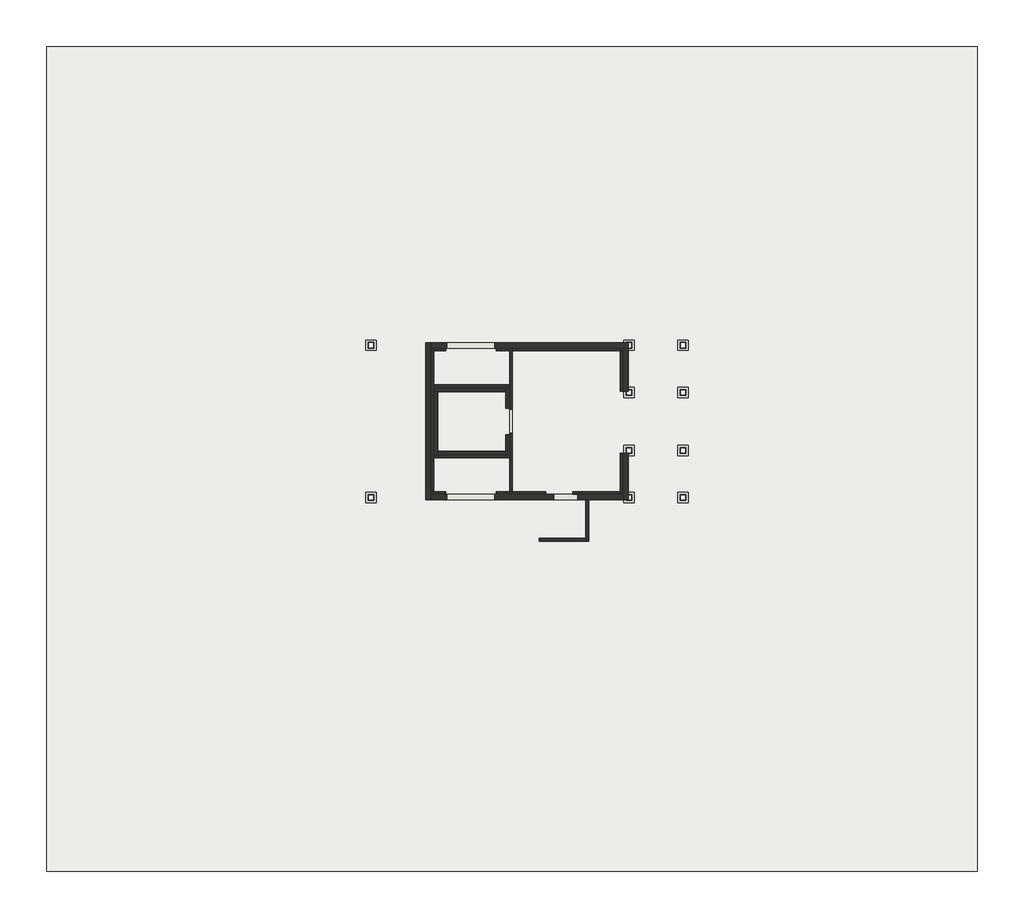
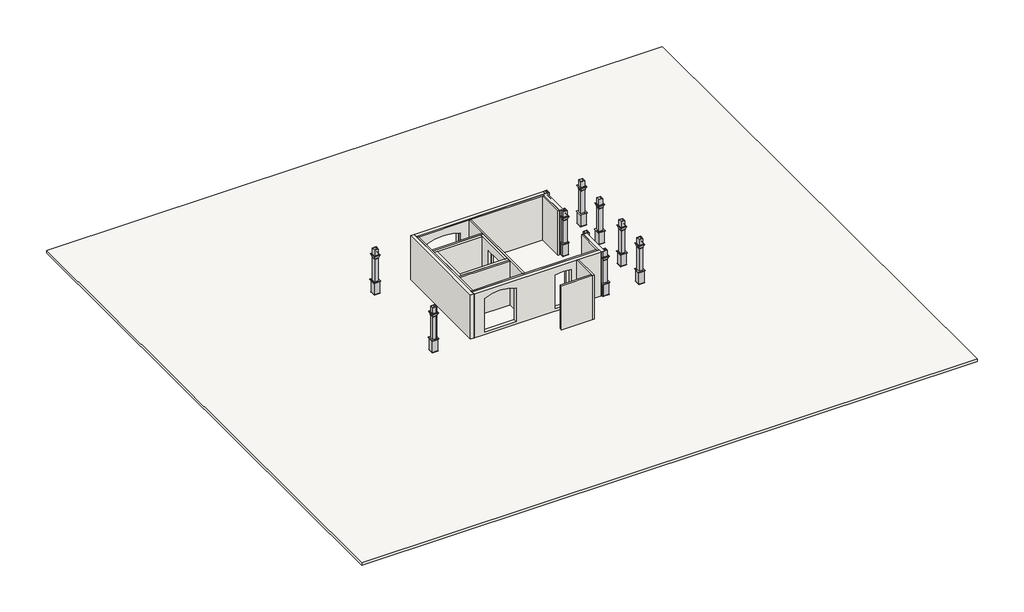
# One storey: 19 walls, 10 columns, 1 slab.
"""IFC4 building model written with IfcOpenShell, lengths in millimetres."""

from ifc_helpers import new_model, si_unit, frame, origin, place, context, project, spatial, polyline, circle_curve, outline, extrude, faceted_brep, transform, mapped, element, save
from ifc_brep_helpers import plane_surface, revolved_surface, advanced_brep
from components import column_dc167576

model = new_model("IFC4")

# Units and contexts
model_context = context("Model", 3, world=origin())
ifc_project = project(units=[si_unit("LENGTHUNIT", "METRE", prefix="MILLI")], contexts=[model_context])

# Site, building, storey
site = spatial("IfcSite", under=ifc_project)
building = spatial("IfcBuilding", under=site)
storey = spatial("IfcBuildingStorey", under=building, Name="地坪", Elevation=-150.0)

# Columns
placement = place(None, origin())
column_shape = column_dc167576(model_context)
element("IfcColumn", 1, ObjectType="构造柱外包装饰 : 构造柱外包装饰", at=placement, inside=storey, context=model_context, shape_type="MappedRepresentation", body=[
    mapped(column_shape, transform((0.0, 0.0, 0.0), x_axis=(1.0, 0.0, 0.0), y_axis=(0.0, 1.0, 0.0), z_axis=(0.0, 0.0, 1.0))),
])
element("IfcColumn", 2, ObjectType="构造柱外包装饰1 : 构造柱外包装饰", at=placement, inside=storey, context=model_context, shape_type="MappedRepresentation", body=[
    mapped(column_shape, transform((0.0, 1775.0, 0.0), x_axis=(1.0, 0.0, 0.0), y_axis=(0.0, 1.0, 0.0), z_axis=(0.0, 0.0, 1.0))),
])
element("IfcColumn", 3, ObjectType="构造柱外包装饰2 : 构造柱外包装饰", at=placement, inside=storey, context=model_context, shape_type="MappedRepresentation", body=[
    mapped(column_shape, transform((0.0, 3951.0, 0.0), x_axis=(1.0, 0.0, 0.0), y_axis=(0.0, 1.0, 0.0), z_axis=(0.0, 0.0, 1.0))),
])
element("IfcColumn", 4, ObjectType="构造柱外包装饰3 : 构造柱外包装饰", at=placement, inside=storey, context=model_context, shape_type="MappedRepresentation", body=[
    mapped(column_shape, transform((0.0, 5726.0, 0.0), x_axis=(1.0, 0.0, 0.0), y_axis=(0.0, 1.0, 0.0), z_axis=(0.0, 0.0, 1.0))),
])
element("IfcColumn", 5, ObjectType="构造柱外包装饰4 : 构造柱外包装饰", at=placement, inside=storey, context=model_context, shape_type="MappedRepresentation", body=[
    mapped(column_shape, transform((-11726.0, 0.0, 0.0), x_axis=(1.0, 0.0, 0.0), y_axis=(0.0, 1.0, 0.0), z_axis=(0.0, 0.0, 1.0))),
])
element("IfcColumn", 6, ObjectType="构造柱外包装饰7 : 构造柱外包装饰", at=placement, inside=storey, context=model_context, shape_type="MappedRepresentation", body=[
    mapped(column_shape, transform((-11726.0, 5726.0, 0.0), x_axis=(1.0, 0.0, 0.0), y_axis=(0.0, 1.0, 0.0), z_axis=(0.0, 0.0, 1.0))),
])
element("IfcColumn", 7, ObjectType="构造柱外包装饰8 : 构造柱外包装饰", at=placement, inside=storey, context=model_context, shape_type="MappedRepresentation", body=[
    mapped(column_shape, transform((-2030.0, 0.0, 0.0), x_axis=(1.0, 0.0, 0.0), y_axis=(0.0, 1.0, 0.0), z_axis=(0.0, 0.0, 1.0))),
])
element("IfcColumn", 8, ObjectType="构造柱外包装饰9 : 构造柱外包装饰", at=placement, inside=storey, context=model_context, shape_type="MappedRepresentation", body=[
    mapped(column_shape, transform((-2030.0, 1775.0, 0.0), x_axis=(1.0, 0.0, 0.0), y_axis=(0.0, 1.0, 0.0), z_axis=(0.0, 0.0, 1.0))),
])
element("IfcColumn", 9, ObjectType="构造柱外包装饰10 : 构造柱外包装饰", at=placement, inside=storey, context=model_context, shape_type="MappedRepresentation", body=[
    mapped(column_shape, transform((-2030.0, 3951.0, 0.0), x_axis=(1.0, 0.0, 0.0), y_axis=(0.0, 1.0, 0.0), z_axis=(0.0, 0.0, 1.0))),
])
element("IfcColumn", 10, ObjectType="构造柱外包装饰11 : 构造柱外包装饰", at=placement, inside=storey, context=model_context, shape_type="MappedRepresentation", body=[
    mapped(column_shape, transform((-2030.0, 5726.0, 0.0), x_axis=(1.0, 0.0, 0.0), y_axis=(0.0, 1.0, 0.0), z_axis=(0.0, 0.0, 1.0))),
])

# Slab
element("IfcSlab", 11, ObjectType="常规 - 150mm", at=placement, inside=storey, context=model_context, shape_type="SweptSolid", body=[
    extrude(outline(polyline([(16131.8080076, 15769.6347721), (16131.8080076, -15230.3652279), (-18868.1919924, -15230.3652279), (-18868.1919924, 15769.6347721), (16131.8080076, 15769.6347721)])), frame((0.0, 0.0, -300.0), z_axis=(0.0, 0.0, 1.0), x_axis=(1.0, 0.0, 0.0)), (0.0, 0.0, 1.0), 150.0),
])

# Walls
element("IfcWall", 12, ObjectType="常规 - 200mm", at=placement, inside=storey, context=model_context, shape_type="Brep", body=[
    faceted_brep([(-4616.8419422, 4628.016625, -150.0), (-4616.8419422, -1271.983375, -150.0), (-4616.8419422, -1271.983375, 2500.0), (-4616.8419422, 4628.016625, 2500.0), (-4416.8419422, 4628.016625, -150.0), (-4416.8419422, 4628.016625, 2500.0), (-4416.8419422, 4428.016625, 2500.0), (-4416.8419422, -1071.983375, 2500.0), (-4416.8419422, -1271.983375, 2500.0), (-4416.8419422, -1271.983375, -150.0), (-4416.8419422, -1071.983375, -150.0), (-4416.8419422, 4428.016625, -150.0)], [[[0, 1, 2, 3]], [[4, 5, 6, 7, 8, 9, 10, 11]], [[1, 0, 4, 11, 10, 9]], [[3, 2, 8, 7, 6, 5]], [[0, 3, 5, 4]], [[2, 1, 9, 8]]]),
])
element("IfcWall", 13, ObjectType="常规 - 200mm", at=placement, inside=storey, context=model_context, shape_type="AdvancedBrep", body=[
    advanced_brep(
    [(-4416.8419422, 4428.016625, -150.0), (3009.1580578, 4428.016625, -150.0), (3009.1580578, 4428.016625, 2500.0), (-4416.8419422, 4428.016625, 2500.0), (-3816.8419422, 4428.016625, 0.0), (-3816.8419422, 4428.016625, 2020.0), (-2016.8419422, 4428.016625, 2020.0), (-2016.8419422, 4428.016625, 0.0), (3009.1580578, 4628.016625, -150.0), (-4416.8419422, 4628.016625, -150.0), (-4416.8419422, 4628.016625, 2500.0), (3009.1580578, 4628.016625, 2500.0), (-3816.8419422, 4628.016625, 2020.0), (-3816.8419422, 4628.016625, 0.0), (-2016.8419422, 4628.016625, 0.0), (-2016.8419422, 4628.016625, 2020.0), (3009.1580578, 4449.516625, 2500.0), (3009.1580578, 4624.516625, 2500.0)],
    [
        (0, 1),
        (1, 2),
        (2, 3),
        (3, 0),
        (4, 5),
        (5, 6, circle_curve(frame((-2916.8419422, 4428.016625, -140.0), z_axis=(0.0, 1.0, 0.0), x_axis=(-1.0, 0.0, 0.0)), 2340.0)),
        (6, 7),
        (7, 4),
        (8, 9),
        (9, 10),
        (10, 11),
        (11, 8),
        (12, 13),
        (13, 14),
        (14, 15),
        (15, 12, circle_curve(frame((-2916.8419422, 4628.016625, -140.0), z_axis=(0.0, -1.0, 0.0), x_axis=(-1.0, 0.0, 0.0)), 2340.0)),
        (0, 9),
        (8, 1),
        (2, 16),
        (16, 17),
        (17, 11),
        (10, 3),
        (4, 13),
        (12, 5),
        (15, 6),
        (14, 7),
    ],
    [
        plane_surface(frame((-4516.8419422, 4428.016625, -150.0), z_axis=(0.0, -1.0, 0.0), x_axis=(1.0, 0.0, 0.0))),
        plane_surface(frame((-4516.8419422, 4628.016625, -150.0), z_axis=(0.0, 1.0, 0.0), x_axis=(-1.0, 0.0, 0.0))),
        plane_surface(frame((-4516.8419422, 4428.016625, -150.0), z_axis=(0.0, 0.0, -1.0), x_axis=(0.0, 1.0, 0.0))),
        plane_surface(frame((2909.1580578, 4428.016625, 2500.0), z_axis=(0.0, 0.0, 1.0), x_axis=(0.0, 1.0, 0.0))),
        plane_surface(frame((-4416.8419422, 4537.016625, -150.0), z_axis=(-1.0, 0.0, 0.0), x_axis=(0.0, 1.0, 0.0))),
        plane_surface(frame((3009.1580578, 4526.016625, -150.0), z_axis=(1.0, 0.0, 0.0), x_axis=(0.0, 1.0, 0.0))),
        plane_surface(frame((-3816.8419422, 5952.016625, 0.0), z_axis=(1.0, 0.0, 0.0), x_axis=(0.0, -1.0, 0.0))),
        revolved_surface(polyline([(-5256.841942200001, 4628.016625, -140.0), (-5256.841942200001, 4428.016625, -140.0)]), (-2916.8419422, 2904.016625, -140.0), (0.0, 1.0, 0.0)),
        plane_surface(frame((-2016.8419422, 5952.016625, 2020.0), z_axis=(-1.0, 0.0, 0.0), x_axis=(0.0, -1.0, 0.0))),
        plane_surface(frame((-2016.8419422, 5952.016625, 0.0), z_axis=(0.0, 0.0, 1.0), x_axis=(0.0, -1.0, 0.0))),
    ],
    [
        (0, [[1, 2, 3, 4], [5, 6, 7, 8]]),
        (1, [[9, 10, 11, 12], [13, 14, 15, 16]]),
        (2, [[-1, 17, -9, 18]]),
        (3, [[-3, 19, 20, 21, -11, 22]]),
        (4, [[-4, -22, -10, -17]]),
        (5, [[-2, -18, -12, -21, -20, -19]]),
        (6, [[23, -13, 24, -5]]),
        (7, [[-24, -16, 25, -6]]),
        (8, [[-25, -15, 26, -7]]),
        (9, [[-23, -8, -26, -14]]),
    ],
),
])
element("IfcWall", 14, ObjectType="常规 - 200mm", at=placement, inside=storey, context=model_context, shape_type="Brep", body=[
    faceted_brep([(2809.1580578, 4428.016625, -150.0), (2809.1580578, 4328.016625, -150.0), (2809.1580578, 2812.016625, -150.0), (2809.1580578, 2812.016625, 2500.0), (2809.1580578, 4328.016625, 2500.0), (2809.1580578, 4428.016625, 2500.0), (3009.1580578, 4428.016625, -150.0), (3009.1580578, 4428.016625, 2500.0), (3009.1580578, 2849.516625, 2500.0), (3009.1580578, 2812.016625, 2500.0), (3009.1580578, 2812.016625, 0.0), (3009.1580578, 2812.016625, -150.0), (2941.6580578, 2812.016625, 2500.0)], [[[0, 1, 2, 3, 4, 5]], [[6, 7, 8, 9, 10, 11]], [[2, 1, 0, 6, 11]], [[3, 2, 11, 10, 9, 12]], [[5, 4, 3, 12, 9, 8, 7]], [[0, 5, 7, 6]]]),
])
element("IfcWall", 15, ObjectType="常规 - 200mm", at=placement, inside=storey, context=model_context, shape_type="AdvancedBrep", body=[
    advanced_brep(
    [(2809.1580578, -1071.983375, -150.0), (-4416.8419422, -1071.983375, -150.0), (-4416.8419422, -1071.983375, 2500.0), (2809.1580578, -1071.983375, 2500.0), (-3816.8419422, -1071.983375, 2020.0), (-3816.8419422, -1071.983375, 0.0), (-2016.8419422, -1071.983375, 0.0), (-2016.8419422, -1071.983375, 2020.0), (209.1580578, -1071.983375, 2020.0), (209.1580578, -1071.983375, 0.0), (1109.1580578, -1071.983375, 0.0), (1109.1580578, -1071.983375, 2020.0), (-4416.8419422, -1271.983375, -150.0), (1409.1580578, -1271.983375, -150.0), (1509.1580578, -1271.983375, -150.0), (2809.1580578, -1271.983375, -150.0), (2809.1580578, -1271.983375, 2500.0), (1509.1580578, -1271.983375, 2500.0), (1409.1580578, -1271.983375, 2500.0), (-4416.8419422, -1271.983375, 2500.0), (-3816.8419422, -1271.983375, 0.0), (-3816.8419422, -1271.983375, 2020.0), (-2016.8419422, -1271.983375, 2020.0), (-2016.8419422, -1271.983375, 0.0), (209.1580578, -1271.983375, 0.0), (209.1580578, -1271.983375, 2020.0), (1109.1580578, -1271.983375, 2020.0), (1109.1580578, -1271.983375, 0.0)],
    [
        (0, 1),
        (1, 2),
        (2, 3),
        (3, 0),
        (4, 5),
        (5, 6),
        (6, 7),
        (7, 4, circle_curve(frame((-2916.8419422, -1071.983375, -140.0), z_axis=(0.0, -1.0, 0.0), x_axis=(-1.0, 0.0, 0.0)), 2340.0)),
        (8, 9),
        (9, 10),
        (10, 11),
        (11, 8, circle_curve(frame((659.1580578, -1071.983375, -140.0), z_axis=(0.0, -1.0, 0.0), x_axis=(-1.0, 0.0, 0.0)), 2206.377121)),
        (12, 13),
        (13, 14),
        (14, 15),
        (15, 16),
        (16, 17),
        (17, 18),
        (18, 19),
        (19, 12),
        (20, 21),
        (21, 22, circle_curve(frame((-2916.8419422, -1271.983375, -140.0), z_axis=(0.0, 1.0, 0.0), x_axis=(-1.0, 0.0, 0.0)), 2340.0)),
        (22, 23),
        (23, 20),
        (24, 25),
        (25, 26, circle_curve(frame((659.1580578, -1271.983375, -140.0), z_axis=(0.0, 1.0, 0.0), x_axis=(-1.0, 0.0, 0.0)), 2206.377121)),
        (26, 27),
        (27, 24),
        (0, 15),
        (12, 1),
        (2, 19),
        (16, 3),
        (20, 5),
        (4, 21),
        (7, 22),
        (6, 23),
        (24, 9),
        (8, 25),
        (11, 26),
        (10, 27),
    ],
    [
        plane_surface(frame((5059.1580578, -1071.983375, -150.0), z_axis=(0.0, 1.0, 0.0), x_axis=(-1.0, 0.0, 0.0))),
        plane_surface(frame((5059.1580578, -1271.983375, -150.0), z_axis=(0.0, -1.0, 0.0), x_axis=(1.0, 0.0, 0.0))),
        plane_surface(frame((2909.1580578, -1071.983375, -150.0), z_axis=(0.0, 0.0, -1.0), x_axis=(0.0, -1.0, 0.0))),
        plane_surface(frame((-4516.8419422, -1071.983375, 2500.0), z_axis=(0.0, 0.0, 1.0), x_axis=(0.0, -1.0, 0.0))),
        plane_surface(frame((-4416.8419422, 4537.016625, -150.0), z_axis=(-1.0, 0.0, 0.0), x_axis=(0.0, 1.0, 0.0))),
        plane_surface(frame((2809.1580578, 4540.016625, -150.0), z_axis=(1.0, 0.0, 0.0), x_axis=(0.0, -1.0, 0.0))),
        plane_surface(frame((-3816.8419422, 452.016625, 0.0), z_axis=(1.0, 0.0, 0.0), x_axis=(0.0, -1.0, 0.0))),
        revolved_surface(polyline([(-5256.841942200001, -1071.983375, -140.0), (-5256.841942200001, -1271.983375, -140.0)]), (-2916.8419422, -2595.983375, -140.0), (0.0, 1.0, 0.0)),
        plane_surface(frame((-2016.8419422, 452.016625, 2020.0), z_axis=(-1.0, 0.0, 0.0), x_axis=(0.0, -1.0, 0.0))),
        plane_surface(frame((-2016.8419422, 452.016625, 0.0), z_axis=(0.0, 0.0, 1.0), x_axis=(0.0, -1.0, 0.0))),
        plane_surface(frame((209.1580578, 452.016625, 0.0), z_axis=(1.0, 0.0, 0.0), x_axis=(0.0, -1.0, 0.0))),
        revolved_surface(polyline([(-1547.2190632, -1071.983375, -140.0), (-1547.2190632, -1271.983375, -140.0)]), (659.1580578, -2595.983375, -140.0), (0.0, 1.0, 0.0)),
        plane_surface(frame((1109.1580578, 452.016625, 2020.0), z_axis=(-1.0, 0.0, 0.0), x_axis=(0.0, -1.0, 0.0))),
        plane_surface(frame((1109.1580578, 452.016625, 0.0), z_axis=(0.0, 0.0, 1.0), x_axis=(0.0, -1.0, 0.0))),
    ],
    [
        (0, [[1, 2, 3, 4], [5, 6, 7, 8], [9, 10, 11, 12]]),
        (1, [[13, 14, 15, 16, 17, 18, 19, 20], [21, 22, 23, 24], [25, 26, 27, 28]]),
        (2, [[-1, 29, -15, -14, -13, 30]]),
        (3, [[-3, 31, -19, -18, -17, 32]]),
        (4, [[-2, -30, -20, -31]]),
        (5, [[-4, -32, -16, -29]]),
        (6, [[33, -5, 34, -21]]),
        (7, [[-34, -8, 35, -22]]),
        (8, [[-35, -7, 36, -23]]),
        (9, [[-33, -24, -36, -6]]),
        (10, [[37, -9, 38, -25]]),
        (11, [[-38, -12, 39, -26]]),
        (12, [[40, -27, -39, -11]]),
        (13, [[-37, -28, -40, -10]]),
    ],
),
])
element("IfcWall", 16, ObjectType="结构墙 - 100mm", at=placement, inside=storey, context=model_context, shape_type="AdvancedBrep", body=[
    advanced_brep(
    [(-4416.8419422, 4328.016625, -150.0), (-4316.8419422, 4328.016625, -150.0), (-3866.8419422, 4328.016625, -150.0), (-3866.8419422, 4328.016625, 1903.0800259), (-1966.8419422, 4328.016625, 1903.0800259), (-1966.8419422, 4328.016625, -150.0), (-1460.8419422, 4328.016625, -150.0), (-1360.8419422, 4328.016625, -150.0), (2709.1580578, 4328.016625, -150.0), (2809.1580578, 4328.016625, -150.0), (2809.1580578, 4328.016625, 2500.0), (2709.1580578, 4328.016625, 2500.0), (-1360.8419422, 4328.016625, 2500.0), (-1460.8419422, 4328.016625, 2500.0), (-4316.8419422, 4328.016625, 2500.0), (-4416.8419422, 4328.016625, 2500.0), (-4416.8419422, 4428.016625, -150.0), (-4416.8419422, 4428.016625, 2500.0), (2809.1580578, 4428.016625, 2500.0), (2809.1580578, 4428.016625, -150.0), (-1966.8419422, 4428.016625, -150.0), (-1966.8419422, 4428.016625, 1903.0800259), (-3866.8419422, 4428.016625, 1903.0800259), (-3866.8419422, 4428.016625, -150.0)],
    [
        (0, 1),
        (1, 2),
        (2, 3),
        (3, 4, circle_curve(frame((-2916.8419422, 4328.016625, -290.0), z_axis=(0.0, 1.0, 0.0), x_axis=(-1.0, 0.0, 0.0)), 2390.0)),
        (4, 5),
        (5, 6),
        (6, 7),
        (7, 8),
        (8, 9),
        (9, 10),
        (10, 11),
        (11, 12),
        (12, 13),
        (13, 14),
        (14, 15),
        (15, 0),
        (16, 17),
        (17, 18),
        (18, 19),
        (19, 20),
        (20, 21),
        (21, 22, circle_curve(frame((-2916.8419422, 4428.016625, -290.0), z_axis=(0.0, -1.0, 0.0), x_axis=(-1.0, 0.0, 0.0)), 2390.0)),
        (22, 23),
        (23, 16),
        (15, 17),
        (16, 0),
        (9, 19),
        (18, 10),
        (23, 2),
        (22, 3),
        (21, 4),
        (20, 5),
    ],
    [
        plane_surface(frame((-4516.8419422, 4328.016625, -150.0), z_axis=(0.0, -1.0, 0.0), x_axis=(1.0, 0.0, 0.0))),
        plane_surface(frame((-4516.8419422, 4428.016625, -150.0), z_axis=(0.0, 1.0, 0.0), x_axis=(-1.0, 0.0, 0.0))),
        plane_surface(frame((-4416.8419422, 4537.016625, -150.0), z_axis=(-1.0, 0.0, 0.0), x_axis=(0.0, 1.0, 0.0))),
        plane_surface(frame((2809.1580578, 4526.016625, -150.0), z_axis=(1.0, 0.0, 0.0), x_axis=(0.0, -1.0, 0.0))),
        plane_surface(frame((-4516.8419422, 4328.016625, -150.0), z_axis=(0.0, 0.0, -1.0), x_axis=(0.0, 1.0, 0.0))),
        plane_surface(frame((2909.1580578, 4328.016625, 2500.0), z_axis=(0.0, 0.0, 1.0), x_axis=(0.0, 1.0, 0.0))),
        plane_surface(frame((-3866.8419422, 4328.016625, -150.0), z_axis=(1.0, 0.0, 0.0), x_axis=(0.0, 1.0, 0.0))),
        revolved_surface(polyline([(-5306.841942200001, 4428.016625, -290.0), (-5306.841942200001, 4328.016625, -290.0)]), (-2916.8419422, 4428.016625, -290.0), (0.0, 1.0, 0.0)),
        plane_surface(frame((-1966.8419422, 4328.016625, 1903.0800259), z_axis=(-1.0, 0.0, 0.0), x_axis=(0.0, 1.0, 0.0))),
        plane_surface(frame((-1966.8419422, 4328.016625, -150.0), z_axis=(0.0, 0.0, -1.0), x_axis=(0.0, 1.0, 0.0))),
    ],
    [
        (0, [[1, 2, 3, 4, 5, 6, 7, 8, 9, 10, 11, 12, 13, 14, 15, 16]]),
        (1, [[17, 18, 19, 20, 21, 22, 23, 24]]),
        (2, [[-16, 25, -17, 26]]),
        (3, [[-10, 27, -19, 28]]),
        (4, [[-2, -1, -26, -24, 29]]),
        (5, [[-15, -14, -13, -12, -11, -28, -18, -25]]),
        (6, [[-3, -29, -23, 30]]),
        (7, [[-4, -30, -22, 31]]),
        (8, [[-5, -31, -21, 32]]),
        (9, [[-9, -8, -7, -6, -32, -20, -27]]),
    ],
),
])
element("IfcWall", 17, ObjectType="结构墙 - 100mm", at=placement, inside=storey, context=model_context, shape_type="SweptSolid", body=[
    extrude(outline(polyline([(2709.1580578, 2812.016625), (2709.1580578, 4328.016625), (2809.1580578, 4328.016625), (2809.1580578, 2812.016625), (2709.1580578, 2812.016625)])), frame((0.0, 0.0, -150.0), z_axis=(0.0, 0.0, 1.0), x_axis=(1.0, 0.0, 0.0)), (0.0, 0.0, 1.0), 2650.0),
])
element("IfcWall", 18, ObjectType="结构墙 - 100mm", at=placement, inside=storey, context=model_context, shape_type="AdvancedBrep", body=[
    advanced_brep(
    [(2709.1580578, -971.983375, -150.0), (909.1580578, -971.983375, -150.0), (909.1580578, -971.983375, 2095.4194237), (-90.8419422, -971.983375, 1980.6366968), (-90.8419422, -971.983375, -150.0), (-1360.8419422, -971.983375, -150.0), (-1460.8419422, -971.983375, -150.0), (-1966.8419422, -971.983375, -150.0), (-1966.8419422, -971.983375, 1980.6366968), (-3866.8419422, -971.983375, 1980.6366968), (-3866.8419422, -971.983375, -150.0), (-4316.8419422, -971.983375, -150.0), (-4416.8419422, -971.983375, -150.0), (-4416.8419422, -971.983375, 2500.0), (-4316.8419422, -971.983375, 2500.0), (-1460.8419422, -971.983375, 2500.0), (-1360.8419422, -971.983375, 2500.0), (2709.1580578, -971.983375, 2500.0), (2709.1580578, -1071.983375, -150.0), (2709.1580578, -1071.983375, 2500.0), (-4416.8419422, -1071.983375, 2500.0), (-4416.8419422, -1071.983375, -150.0), (-3866.8419422, -1071.983375, -150.0), (-3866.8419422, -1071.983375, 1980.6366968), (-1966.8419422, -1071.983375, 1980.6366968), (-1966.8419422, -1071.983375, -150.0), (-90.8419422, -1071.983375, -150.0), (-90.8419422, -1071.983375, 1980.6366968), (909.1580578, -1071.983375, 2095.4194237), (909.1580578, -1071.983375, -150.0)],
    [
        (0, 1),
        (1, 2),
        (2, 3, circle_curve(frame((659.1580578, -971.983375, -140.0), z_axis=(0.0, -1.0, 0.0), x_axis=(1.0, 0.0, 0.0)), 2249.3554632)),
        (3, 4),
        (4, 5),
        (5, 6),
        (6, 7),
        (7, 8),
        (8, 9, circle_curve(frame((-2916.8419422, -971.983375, -290.0), z_axis=(0.0, -1.0, 0.0), x_axis=(1.0, 0.0, 0.0)), 2461.3595855)),
        (9, 10),
        (10, 11),
        (11, 12),
        (12, 13),
        (13, 14),
        (14, 15),
        (15, 16),
        (16, 17),
        (17, 0),
        (18, 19),
        (19, 20),
        (20, 21),
        (21, 22),
        (22, 23),
        (23, 24, circle_curve(frame((-2916.8419422, -1071.983375, -290.0), z_axis=(0.0, 1.0, 0.0), x_axis=(1.0, 0.0, 0.0)), 2461.3595855)),
        (24, 25),
        (25, 26),
        (26, 27),
        (27, 28, circle_curve(frame((659.1580578, -1071.983375, -140.0), z_axis=(0.0, 1.0, 0.0), x_axis=(1.0, 0.0, 0.0)), 2249.3554632)),
        (28, 29),
        (29, 18),
        (12, 21),
        (20, 13),
        (17, 19),
        (18, 0),
        (29, 1),
        (7, 25),
        (24, 8),
        (23, 9),
        (22, 10),
        (28, 2),
        (27, 3),
        (26, 4),
    ],
    [
        plane_surface(frame((2759.1580578, -971.983375, -150.0), z_axis=(0.0, 1.0, 0.0), x_axis=(-1.0, 0.0, 0.0))),
        plane_surface(frame((2759.1580578, -1071.983375, -150.0), z_axis=(0.0, -1.0, 0.0), x_axis=(1.0, 0.0, 0.0))),
        plane_surface(frame((-4416.8419422, 4537.016625, -150.0), z_axis=(-1.0, 0.0, 0.0), x_axis=(0.0, 1.0, 0.0))),
        plane_surface(frame((2709.1580578, 4187.016625, -150.0), z_axis=(1.0, 0.0, 0.0), x_axis=(0.0, -1.0, 0.0))),
        plane_surface(frame((2759.1580578, -971.983375, -150.0), z_axis=(0.0, 0.0, -1.0), x_axis=(0.0, -1.0, 0.0))),
        plane_surface(frame((-4516.8419422, -971.983375, 2500.0), z_axis=(0.0, 0.0, 1.0), x_axis=(0.0, -1.0, 0.0))),
        plane_surface(frame((-1966.8419422, -971.983375, -150.0), z_axis=(-1.0, 0.0, 0.0), x_axis=(0.0, -1.0, 0.0))),
        revolved_surface(polyline([(-455.4823567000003, -1071.983375, -290.0), (-455.4823567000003, -971.983375, -290.0)]), (-2916.8419422, -1071.983375, -290.0), (0.0, -1.0, 0.0)),
        plane_surface(frame((-3866.8419422, -971.983375, 1980.6366968), z_axis=(1.0, 0.0, 0.0), x_axis=(0.0, -1.0, 0.0))),
        plane_surface(frame((-3866.8419422, -971.983375, -150.0), z_axis=(0.0, 0.0, -1.0), x_axis=(0.0, -1.0, 0.0))),
        plane_surface(frame((909.1580578, -971.983375, -150.0), z_axis=(-1.0, 0.0, 0.0), x_axis=(0.0, -1.0, 0.0))),
        revolved_surface(polyline([(2908.513521, -1071.983375, -140.0), (2908.513521, -971.983375, -140.0)]), (659.1580578, -1071.983375, -140.0), (0.0, -1.0, 0.0)),
        plane_surface(frame((-90.8419422, -971.983375, 1980.6366968), z_axis=(1.0, 0.0, 0.0), x_axis=(0.0, -1.0, 0.0))),
        plane_surface(frame((-90.8419422, -971.983375, -150.0), z_axis=(0.0, 0.0, -1.0), x_axis=(0.0, -1.0, 0.0))),
    ],
    [
        (0, [[1, 2, 3, 4, 5, 6, 7, 8, 9, 10, 11, 12, 13, 14, 15, 16, 17, 18]]),
        (1, [[19, 20, 21, 22, 23, 24, 25, 26, 27, 28, 29, 30]]),
        (2, [[-13, 31, -21, 32]]),
        (3, [[-18, 33, -19, 34]]),
        (4, [[-1, -34, -30, 35]]),
        (5, [[-17, -16, -15, -14, -32, -20, -33]]),
        (6, [[-8, 36, -25, 37]]),
        (7, [[-9, -37, -24, 38]]),
        (8, [[-10, -38, -23, 39]]),
        (9, [[-12, -11, -39, -22, -31]]),
        (10, [[-2, -35, -29, 40]]),
        (11, [[-3, -40, -28, 41]]),
        (12, [[-4, -41, -27, 42]]),
        (13, [[-7, -6, -5, -42, -26, -36]]),
    ],
),
])
element("IfcWall", 19, ObjectType="结构墙 - 100mm", at=placement, inside=storey, context=model_context, shape_type="Brep", body=[
    faceted_brep([(-4316.8419422, -971.983375, -150.0), (-4316.8419422, 303.016625, -150.0), (-4316.8419422, 403.016625, -150.0), (-4316.8419422, 2945.016625, -150.0), (-4316.8419422, 3045.016625, -150.0), (-4316.8419422, 4328.016625, -150.0), (-4316.8419422, 4328.016625, 2500.0), (-4316.8419422, 3045.016625, 2500.0), (-4316.8419422, 2945.016625, 2500.0), (-4316.8419422, 403.016625, 2500.0), (-4316.8419422, 303.016625, 2500.0), (-4316.8419422, -971.983375, 2500.0), (-4416.8419422, -971.983375, -150.0), (-4416.8419422, -971.983375, 2500.0), (-4416.8419422, 4328.016625, 2500.0), (-4416.8419422, 4328.016625, -150.0)], [[[0, 1, 2, 3, 4, 5, 6, 7, 8, 9, 10, 11]], [[12, 13, 14, 15]], [[5, 4, 3, 2, 1, 0, 12, 15]], [[11, 10, 9, 8, 7, 6, 14, 13]], [[6, 5, 15, 14]], [[0, 11, 13, 12]]]),
])
element("IfcWall", 20, ObjectType="结构墙 - 100mm", at=placement, inside=storey, context=model_context, shape_type="AdvancedBrep", body=[
    advanced_brep(
    [(-1460.8419422, 4328.016625, -150.0), (-1460.8419422, 3045.016625, -150.0), (-1460.8419422, 2945.016625, -150.0), (-1460.8419422, 403.016625, -150.0), (-1460.8419422, 303.016625, -150.0), (-1460.8419422, -971.983375, -150.0), (-1460.8419422, -971.983375, 2500.0), (-1460.8419422, 303.016625, 2500.0), (-1460.8419422, 403.016625, 2500.0), (-1460.8419422, 2945.016625, 2500.0), (-1460.8419422, 3045.016625, 2500.0), (-1460.8419422, 4328.016625, 2500.0), (-1460.8419422, 2124.016625, 0.0), (-1460.8419422, 2124.016625, 2020.0), (-1460.8419422, 1224.016625, 2020.0), (-1460.8419422, 1224.016625, 0.0), (-1360.8419422, -971.983375, -150.0), (-1360.8419422, 4328.016625, -150.0), (-1360.8419422, 4328.016625, 2500.0), (-1360.8419422, -971.983375, 2500.0), (-1360.8419422, 2124.016625, 2020.0), (-1360.8419422, 2124.016625, 0.0), (-1360.8419422, 1224.016625, 0.0), (-1360.8419422, 1224.016625, 2020.0)],
    [
        (0, 1),
        (1, 2),
        (2, 3),
        (3, 4),
        (4, 5),
        (5, 6),
        (6, 7),
        (7, 8),
        (8, 9),
        (9, 10),
        (10, 11),
        (11, 0),
        (12, 13),
        (13, 14, circle_curve(frame((-1460.8419422, 1674.016625, -140.0), z_axis=(1.0, 0.0, 0.0), x_axis=(0.0, 1.0, 0.0)), 2206.377121)),
        (14, 15),
        (15, 12),
        (16, 17),
        (17, 18),
        (18, 19),
        (19, 16),
        (20, 21),
        (21, 22),
        (22, 23),
        (23, 20, circle_curve(frame((-1360.8419422, 1674.016625, -140.0), z_axis=(-1.0, 0.0, 0.0), x_axis=(0.0, 1.0, 0.0)), 2206.377121)),
        (0, 17),
        (16, 5),
        (6, 19),
        (18, 11),
        (12, 21),
        (20, 13),
        (23, 14),
        (22, 15),
    ],
    [
        plane_surface(frame((-1460.8419422, 4378.016625, -150.0), z_axis=(-1.0, 0.0, 0.0), x_axis=(0.0, -1.0, 0.0))),
        plane_surface(frame((-1360.8419422, 4378.016625, -150.0), z_axis=(1.0, 0.0, 0.0), x_axis=(0.0, 1.0, 0.0))),
        plane_surface(frame((-1460.8419422, 4378.016625, -150.0), z_axis=(0.0, 0.0, -1.0), x_axis=(1.0, 0.0, 0.0))),
        plane_surface(frame((-1460.8419422, -1021.983375, 2500.0), z_axis=(0.0, 0.0, 1.0), x_axis=(1.0, 0.0, 0.0))),
        plane_surface(frame((-4516.8419422, 4328.016625, -150.0), z_axis=(0.0, 1.0, 0.0), x_axis=(1.0, 0.0, 0.0))),
        plane_surface(frame((2759.1580578, -971.983375, -150.0), z_axis=(0.0, -1.0, 0.0), x_axis=(-1.0, 0.0, 0.0))),
        plane_surface(frame((63.1580578, 2124.016625, 0.0), z_axis=(0.0, -1.0, 0.0), x_axis=(-1.0, 0.0, 0.0))),
        revolved_surface(polyline([(-1360.8419422, 3880.3937459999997, -140.0), (-1460.8419422, 3880.3937459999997, -140.0)]), (-2984.8419422, 1674.016625, -140.0), (1.0, 0.0, 0.0)),
        plane_surface(frame((63.1580578, 1224.016625, 2020.0), z_axis=(0.0, 1.0, 0.0), x_axis=(-1.0, 0.0, 0.0))),
        plane_surface(frame((63.1580578, 1224.016625, 0.0), z_axis=(0.0, 0.0, 1.0), x_axis=(-1.0, 0.0, 0.0))),
    ],
    [
        (0, [[1, 2, 3, 4, 5, 6, 7, 8, 9, 10, 11, 12], [13, 14, 15, 16]]),
        (1, [[17, 18, 19, 20], [21, 22, 23, 24]]),
        (2, [[-5, -4, -3, -2, -1, 25, -17, 26]]),
        (3, [[-11, -10, -9, -8, -7, 27, -19, 28]]),
        (4, [[-12, -28, -18, -25]]),
        (5, [[-6, -26, -20, -27]]),
        (6, [[29, -21, 30, -13]]),
        (7, [[-30, -24, 31, -14]]),
        (8, [[-31, -23, 32, -15]]),
        (9, [[-29, -16, -32, -22]]),
    ],
),
])
element("IfcWall", 21, ObjectType="结构墙 - 100mm", at=placement, inside=storey, context=model_context, shape_type="SweptSolid", body=[
    extrude(outline(polyline([(-1460.8419422, 303.016625), (-4316.8419422, 303.016625), (-4316.8419422, 403.016625), (-1460.8419422, 403.016625), (-1460.8419422, 303.016625)])), frame((0.0, 0.0, -150.0), z_axis=(0.0, 0.0, 1.0), x_axis=(1.0, 0.0, 0.0)), (0.0, 0.0, 1.0), 2650.0),
])
element("IfcWall", 22, ObjectType="结构墙 - 100mm", at=placement, inside=storey, context=model_context, shape_type="SweptSolid", body=[
    extrude(outline(polyline([(-1460.8419422, 2945.016625), (-4316.8419422, 2945.016625), (-4316.8419422, 3045.016625), (-1460.8419422, 3045.016625), (-1460.8419422, 2945.016625)])), frame((0.0, 0.0, -150.0), z_axis=(0.0, 0.0, 1.0), x_axis=(1.0, 0.0, 0.0)), (0.0, 0.0, 1.0), 2650.0),
])
element("IfcWall", 23, ObjectType="冷库隔墙 - 150mm", at=placement, inside=storey, context=model_context, shape_type="Brep", body=[
    faceted_brep([(-4316.8419422, 2795.016625, -150.0), (-4166.8419422, 2795.016625, -150.0), (-1610.8419422, 2795.016625, -150.0), (-1610.8419422, 2795.016625, 2500.0), (-4166.8419422, 2795.016625, 2500.0), (-4316.8419422, 2795.016625, 2500.0), (-4316.8419422, 2945.016625, -150.0), (-4316.8419422, 2945.016625, 2500.0), (-1610.8419422, 2945.016625, 2500.0), (-1610.8419422, 2945.016625, -150.0)], [[[0, 1, 2, 3, 4, 5]], [[6, 7, 8, 9]], [[2, 1, 0, 6, 9]], [[5, 4, 3, 8, 7]], [[0, 5, 7, 6]], [[3, 2, 9, 8]]]),
])
element("IfcWall", 24, ObjectType="冷库隔墙 - 150mm", at=placement, inside=storey, context=model_context, shape_type="Brep", body=[
    faceted_brep([(-4166.8419422, 403.016625, -150.0), (-4166.8419422, 553.016625, -150.0), (-4166.8419422, 2795.016625, -150.0), (-4166.8419422, 2795.016625, 2500.0), (-4166.8419422, 553.016625, 2500.0), (-4166.8419422, 403.016625, 2500.0), (-4316.8419422, 403.016625, -150.0), (-4316.8419422, 403.016625, 2500.0), (-4316.8419422, 2795.016625, 2500.0), (-4316.8419422, 2795.016625, -150.0)], [[[0, 1, 2, 3, 4, 5]], [[6, 7, 8, 9]], [[2, 1, 0, 6, 9]], [[5, 4, 3, 8, 7]], [[0, 5, 7, 6]], [[3, 2, 9, 8]]]),
])
element("IfcWall", 25, ObjectType="冷库隔墙 - 150mm", at=placement, inside=storey, context=model_context, shape_type="Brep", body=[
    faceted_brep([(-1460.8419422, 553.016625, -150.0), (-1610.8419422, 553.016625, -150.0), (-4166.8419422, 553.016625, -150.0), (-4166.8419422, 553.016625, 2500.0), (-1610.8419422, 553.016625, 2500.0), (-1460.8419422, 553.016625, 2500.0), (-1460.8419422, 403.016625, -150.0), (-1460.8419422, 403.016625, 2500.0), (-4166.8419422, 403.016625, 2500.0), (-4166.8419422, 403.016625, -150.0)], [[[0, 1, 2, 3, 4, 5]], [[6, 7, 8, 9]], [[2, 1, 0, 6, 9]], [[5, 4, 3, 8, 7]], [[0, 5, 7, 6]], [[3, 2, 9, 8]]]),
])
element("IfcWall", 26, ObjectType="冷库隔墙 - 150mm", at=placement, inside=storey, context=model_context, shape_type="AdvancedBrep", body=[
    advanced_brep(
    [(-1610.8419422, 2945.016625, -150.0), (-1610.8419422, 2795.016625, -150.0), (-1610.8419422, 2174.016625, -150.0), (-1610.8419422, 2174.016625, 2053.0800259), (-1610.8419422, 1174.016625, 2053.0800259), (-1610.8419422, 1174.016625, -150.0), (-1610.8419422, 553.016625, -150.0), (-1610.8419422, 553.016625, 2500.0), (-1610.8419422, 2795.016625, 2500.0), (-1610.8419422, 2945.016625, 2500.0), (-1460.8419422, 2945.016625, -150.0), (-1460.8419422, 2945.016625, 2500.0), (-1460.8419422, 553.016625, 2500.0), (-1460.8419422, 553.016625, -150.0), (-1460.8419422, 1174.016625, -150.0), (-1460.8419422, 1174.016625, 2053.0800259), (-1460.8419422, 2174.016625, 2053.0800259), (-1460.8419422, 2174.016625, -150.0)],
    [
        (0, 1),
        (1, 2),
        (2, 3),
        (3, 4, circle_curve(frame((-1610.8419422, 1674.016625, -140.0), z_axis=(1.0, 0.0, 0.0), x_axis=(0.0, 1.0, 0.0)), 2249.3554632)),
        (4, 5),
        (5, 6),
        (6, 7),
        (7, 8),
        (8, 9),
        (9, 0),
        (10, 11),
        (11, 12),
        (12, 13),
        (13, 14),
        (14, 15),
        (15, 16, circle_curve(frame((-1460.8419422, 1674.016625, -140.0), z_axis=(-1.0, 0.0, 0.0), x_axis=(0.0, 1.0, 0.0)), 2249.3554632)),
        (16, 17),
        (17, 10),
        (9, 11),
        (10, 0),
        (6, 13),
        (12, 7),
        (17, 2),
        (16, 3),
        (15, 4),
        (14, 5),
    ],
    [
        plane_surface(frame((-1610.8419422, 2870.016625, -150.0), z_axis=(-1.0, 0.0, 0.0), x_axis=(0.0, -1.0, 0.0))),
        plane_surface(frame((-1460.8419422, 2870.016625, -150.0), z_axis=(1.0, 0.0, 0.0), x_axis=(0.0, 1.0, 0.0))),
        plane_surface(frame((-4241.8419422, 2945.016625, -150.0), z_axis=(0.0, 1.0, 0.0), x_axis=(-1.0, 0.0, 0.0))),
        plane_surface(frame((-1623.2210822, 553.016625, -150.0), z_axis=(0.0, -1.0, 0.0), x_axis=(-1.0, 0.0, 0.0))),
        plane_surface(frame((-1610.8419422, 2870.016625, -150.0), z_axis=(0.0, 0.0, -1.0), x_axis=(1.0, 0.0, 0.0))),
        plane_surface(frame((-1610.8419422, 478.016625, 2500.0), z_axis=(0.0, 0.0, 1.0), x_axis=(1.0, 0.0, 0.0))),
        plane_surface(frame((-1610.8419422, 2174.016625, -150.0), z_axis=(0.0, -1.0, 0.0), x_axis=(1.0, 0.0, 0.0))),
        revolved_surface(polyline([(-1460.8419422, 3923.3720882, -140.0), (-1610.8419422, 3923.3720882, -140.0)]), (-1460.8419422, 1674.016625, -140.0), (1.0, 0.0, 0.0)),
        plane_surface(frame((-1610.8419422, 1174.016625, 2053.0800259), z_axis=(0.0, 1.0, 0.0), x_axis=(1.0, 0.0, 0.0))),
        plane_surface(frame((-1610.8419422, 1174.016625, -150.0), z_axis=(0.0, 0.0, -1.0), x_axis=(1.0, 0.0, 0.0))),
    ],
    [
        (0, [[1, 2, 3, 4, 5, 6, 7, 8, 9, 10]]),
        (1, [[11, 12, 13, 14, 15, 16, 17, 18]]),
        (2, [[-10, 19, -11, 20]]),
        (3, [[-7, 21, -13, 22]]),
        (4, [[-2, -1, -20, -18, 23]]),
        (5, [[-9, -8, -22, -12, -19]]),
        (6, [[-3, -23, -17, 24]]),
        (7, [[-4, -24, -16, 25]]),
        (8, [[-5, -25, -15, 26]]),
        (9, [[-6, -26, -14, -21]]),
    ],
),
])
element("IfcWall", 27, ObjectType="常规 - 200mm", at=placement, inside=storey, context=model_context, shape_type="Brep", body=[
    faceted_brep([(2809.1580578, 486.016625, -150.0), (2809.1580578, -1071.983375, -150.0), (2809.1580578, -1271.983375, -150.0), (2809.1580578, -1271.983375, 2500.0), (2809.1580578, -1071.983375, 2500.0), (2809.1580578, 486.016625, 2500.0), (3009.1580578, 486.016625, -150.0), (3009.1580578, 486.016625, 2500.0), (3009.1580578, -1101.483375, 2500.0), (3009.1580578, -1271.983375, 2500.0), (3009.1580578, -1271.983375, 0.0), (3009.1580578, -1271.983375, -150.0), (2941.6580578, -1271.983375, 2500.0)], [[[0, 1, 2, 3, 4, 5]], [[6, 7, 8, 9, 10, 11]], [[2, 1, 0, 6, 11]], [[5, 4, 3, 12, 9, 8, 7]], [[0, 5, 7, 6]], [[3, 2, 11, 10, 9, 12]]]),
])
element("IfcWall", 28, ObjectType="结构墙 - 100mm", at=placement, inside=storey, context=model_context, shape_type="Brep", body=[
    faceted_brep([(2709.1580578, 486.016625, -150.0), (2709.1580578, -971.983375, -150.0), (2709.1580578, -1071.983375, -150.0), (2709.1580578, -1071.983375, 2500.0), (2709.1580578, -971.983375, 2500.0), (2709.1580578, 486.016625, 2500.0), (2809.1580578, 486.016625, -150.0), (2809.1580578, 486.016625, 2500.0), (2809.1580578, -1071.983375, 2500.0), (2809.1580578, -1071.983375, -150.0)], [[[0, 1, 2, 3, 4, 5]], [[6, 7, 8, 9]], [[2, 1, 0, 6, 9]], [[5, 4, 3, 8, 7]], [[0, 5, 7, 6]], [[3, 2, 9, 8]]]),
])
element("IfcWall", 29, ObjectType="常规 - 100mm", at=placement, inside=storey, context=model_context, shape_type="Brep", body=[
    faceted_brep([(1409.1580578, -1271.983375, -150.0), (1409.1580578, -2721.983375, -150.0), (1409.1580578, -2821.983375, -150.0), (1409.1580578, -2821.983375, 2500.0), (1409.1580578, -2721.983375, 2500.0), (1409.1580578, -1271.983375, 2500.0), (1509.1580578, -1271.983375, -150.0), (1509.1580578, -1271.983375, 2500.0), (1509.1580578, -2821.983375, 2500.0), (1509.1580578, -2821.983375, -150.0)], [[[0, 1, 2, 3, 4, 5]], [[6, 7, 8, 9]], [[2, 1, 0, 6, 9]], [[5, 4, 3, 8, 7]], [[0, 5, 7, 6]], [[3, 2, 9, 8]]]),
])
element("IfcWall", 30, ObjectType="常规 - 100mm", at=placement, inside=storey, context=model_context, shape_type="SweptSolid", body=[
    extrude(outline(polyline([(-340.8419422, -2721.983375), (1409.1580578, -2721.983375), (1409.1580578, -2821.983375), (-340.8419422, -2821.983375), (-340.8419422, -2721.983375)])), frame((0.0, 0.0, -150.0), z_axis=(0.0, 0.0, 1.0), x_axis=(1.0, 0.0, 0.0)), (0.0, 0.0, 1.0), 2650.0),
])

save(model, "model.ifc")
